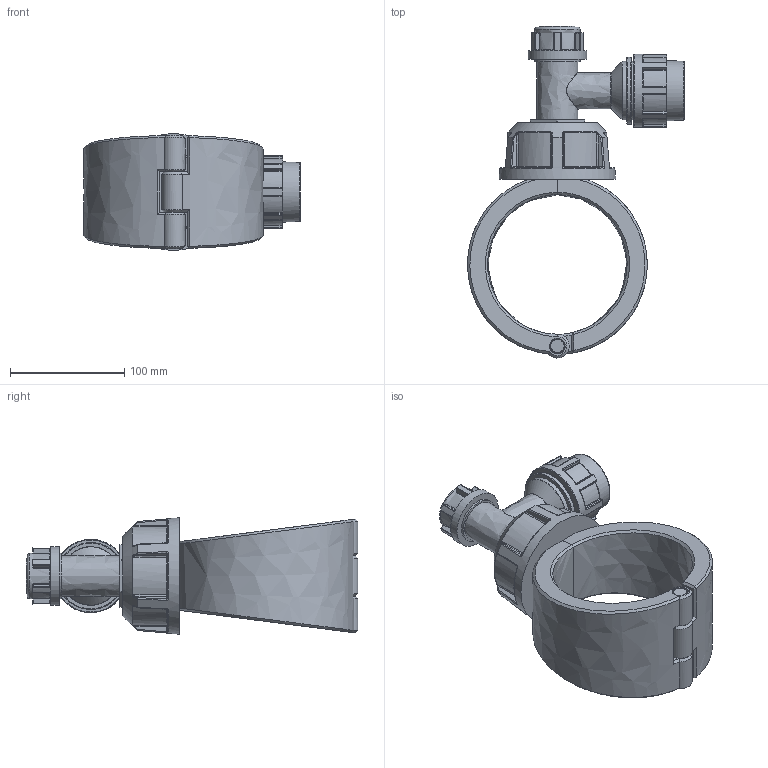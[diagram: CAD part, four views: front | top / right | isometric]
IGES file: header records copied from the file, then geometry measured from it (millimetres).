
Global section: file name: 163100125032_1631061250320A; native system: Autodesk Inventor 2019; preprocessor: unknown; author: comp2; date: 20220203.115808; units: millimetre
Bounding box: 189.5 x 290 x 101.84 mm (x, y, z)
Volume: 1170048.4 mm3; surface area: 159008 mm2
Topology: 4 solids, 4 shells, 519 faces, 1253 edges, 754 vertices
Faces by surface type: bspline 519
